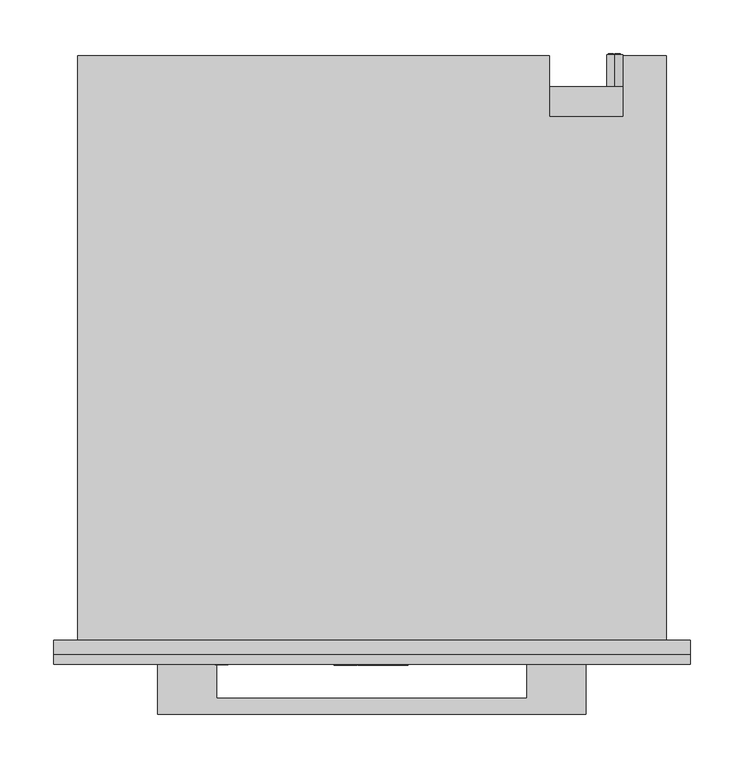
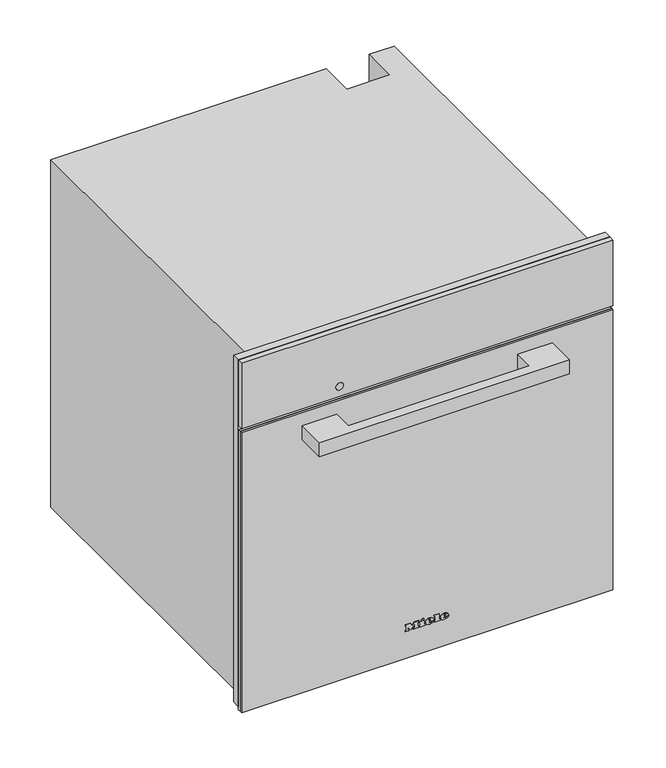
"""IFC4 building model written with IfcOpenShell, lengths in millimetres: proxy geometry, 12117580_I_DGC7860HCPro_GRGR : 23786039_I_12117580_DGC7860HCPro_GRGR."""

from ifc_helpers import new_model, si_unit, point, frame, frame_2d, origin, place, context, project, spatial, polyline, circle_curve, ellipse_curve, trimmed, segment, composite_curve, outline, extrude, faceted_brep, source, transform, mapped, element, save
from ifc_brep_helpers import plane_surface, cylinder_surface, revolved_surface, extruded_surface, advanced_brep


def specialty_equipment_684bbd22(model_context):
    return source(origin(), model_context, "Body", "SolidModel", [
        extrude(outline(polyline([(596.0, 297.5), (596.0, -297.5), (9.0, -297.5), (9.0, 297.5), (596.0, 297.5)]), holes=[polyline([(485.0, -272.5), (485.0, 272.5), (27.0, 272.5), (27.0, -272.5), (485.0, -272.5)])]), frame((0.0, -13.0, 0.0), z_axis=(0.0, 1.0, 0.0), x_axis=(0.0, 0.0, 1.0)), (0.0, 0.0, 1.0), 13.0),
        advanced_brep(
        [(227.0, 547.0, 396.5), (227.0, 547.0, 381.5), (221.4098301, 547.0, 384.0), (225.5, 547.0, 384.0), (225.5, 547.0, 394.0), (224.4955303, 547.0, 394.0), (224.4955303, 547.0, 385.0), (221.0315043, 547.0, 385.0), (221.0315043, 547.0, 384.4582978), (232.0, 547.0, 384.0), (232.0, 547.0, 394.0), (227.0, 547.0, 394.0), (227.0, 547.0, 393.0), (231.0, 547.0, 393.0), (231.0, 547.0, 389.5), (228.0, 547.0, 389.5), (228.0, 547.0, 388.5), (231.0, 547.0, 388.5), (231.0, 547.0, 385.0), (227.0, 547.0, 385.0), (227.0, 547.0, 384.0), (227.0, 517.0, 381.5), (227.0, 517.0, 396.5), (232.0, 548.0, 394.0), (232.0, 548.0, 384.0), (227.0, 548.0, 384.0), (227.0, 548.0, 385.0), (231.0, 548.0, 385.0), (231.0, 548.0, 388.5), (228.0, 548.0, 388.5), (228.0, 548.0, 389.5), (231.0, 548.0, 389.5), (231.0, 548.0, 393.0), (227.0, 548.0, 393.0), (227.0, 548.0, 394.0), (225.5, 548.0, 384.0), (221.0315043, 548.0, 384.0), (221.0315043, 548.0, 385.0), (224.4955303, 548.0, 385.0), (224.4955303, 548.0, 394.0), (225.5, 548.0, 394.0), (221.0315043, 547.0, 384.0)],
        [
            (0, 1, circle_curve(frame((227.0, 547.0, 389.0), z_axis=(0.0, 1.0, 0.0), x_axis=(0.0, 0.0, 1.0)), 7.5)),
            (1, 2, circle_curve(frame((227.0, 547.0, 389.0), z_axis=(0.0, 1.0, 0.0), x_axis=(0.0, 0.0, 1.0)), 7.5)),
            (2, 3),
            (3, 4),
            (4, 5),
            (5, 6),
            (6, 7),
            (7, 8),
            (8, 0, circle_curve(frame((227.0, 547.0, 389.0), z_axis=(0.0, 1.0, 0.0), x_axis=(0.0, 0.0, 1.0)), 7.5)),
            (9, 10),
            (10, 11),
            (11, 12),
            (12, 13),
            (13, 14),
            (14, 15),
            (15, 16),
            (16, 17),
            (17, 18),
            (18, 19),
            (19, 20),
            (20, 9),
            (21, 22, circle_curve(frame((227.0, 517.0, 389.0), z_axis=(0.0, -1.0, 0.0), x_axis=(0.0, 0.0, 1.0)), 7.5)),
            (22, 21, circle_curve(frame((227.0, 517.0, 389.0), z_axis=(0.0, -1.0, 0.0), x_axis=(0.0, 0.0, 1.0)), 7.5)),
            (0, 22),
            (21, 1),
            (8, 2, circle_curve(frame((227.0, 547.0, 389.0), z_axis=(0.0, -1.0, 0.0), x_axis=(0.0, 0.0, 1.0)), 7.5)),
            (23, 24),
            (24, 25),
            (25, 26),
            (26, 27),
            (27, 28),
            (28, 29),
            (29, 30),
            (30, 31),
            (31, 32),
            (32, 33),
            (33, 34),
            (34, 23),
            (35, 36),
            (36, 37),
            (37, 38),
            (38, 39),
            (39, 40),
            (40, 35),
            (8, 41),
            (41, 2),
            (23, 10),
            (9, 24),
            (20, 25),
            (19, 26),
            (18, 27),
            (17, 28),
            (16, 29),
            (15, 30),
            (14, 31),
            (13, 32),
            (12, 33),
            (11, 34),
            (35, 3),
            (41, 36),
            (7, 37),
            (6, 38),
            (5, 39),
            (4, 40),
        ],
        [
            plane_surface(frame((227.0, 547.0, 396.5), z_axis=(0.0, 1.0, 0.0), x_axis=(1.0, 0.0, 0.0))),
            plane_surface(frame((227.0, 517.0, 396.5), z_axis=(0.0, -1.0, 0.0), x_axis=(-1.0, 0.0, 0.0))),
            cylinder_surface(frame((227.0, 547.0, 389.0), z_axis=(0.0, -1.0, 0.0), x_axis=(0.0, 0.0, 1.0)), 7.5),
            plane_surface(frame((232.0, 548.0, 394.0), z_axis=(0.0, 1.0, 0.0), x_axis=(0.0, 0.0, -1.0))),
            plane_surface(frame((232.0, 547.0, 394.0), z_axis=(0.0, -1.0, 0.0), x_axis=(0.0, 0.0, 1.0))),
            plane_surface(frame((232.0, 548.0, 394.0), z_axis=(1.0, 0.0, 0.0), x_axis=(0.0, -1.0, 0.0))),
            plane_surface(frame((232.0, 548.0, 384.0), z_axis=(0.0, 0.0, -1.0), x_axis=(0.0, -1.0, 0.0))),
            plane_surface(frame((227.0, 548.0, 384.0), z_axis=(-1.0, 0.0, 0.0), x_axis=(0.0, -1.0, 0.0))),
            plane_surface(frame((227.0, 548.0, 385.0), z_axis=(0.0, 0.0, 1.0), x_axis=(0.0, -1.0, 0.0))),
            plane_surface(frame((231.0, 548.0, 385.0), z_axis=(-1.0, 0.0, 0.0), x_axis=(0.0, -1.0, 0.0))),
            plane_surface(frame((231.0, 548.0, 388.5), z_axis=(0.0, 0.0, -1.0), x_axis=(0.0, -1.0, 0.0))),
            plane_surface(frame((228.0, 548.0, 388.5), z_axis=(-1.0, 0.0, 0.0), x_axis=(0.0, -1.0, 0.0))),
            plane_surface(frame((228.0, 548.0, 389.5), z_axis=(0.0, 0.0, 1.0), x_axis=(0.0, -1.0, 0.0))),
            plane_surface(frame((231.0, 548.0, 389.5), z_axis=(-1.0, 0.0, 0.0), x_axis=(0.0, -1.0, 0.0))),
            plane_surface(frame((231.0, 548.0, 393.0), z_axis=(0.0, 0.0, -1.0), x_axis=(0.0, -1.0, 0.0))),
            plane_surface(frame((227.0, 548.0, 393.0), z_axis=(-1.0, 0.0, 0.0), x_axis=(0.0, -1.0, 0.0))),
            plane_surface(frame((227.0, 548.0, 394.0), z_axis=(0.0, 0.0, 1.0), x_axis=(0.0, -1.0, 0.0))),
            plane_surface(frame((225.5, 548.0, 384.0), z_axis=(0.0, 0.0, -1.0), x_axis=(0.0, -1.0, 0.0))),
            plane_surface(frame((221.0315043, 548.0, 384.0), z_axis=(-1.0, 0.0, 0.0), x_axis=(0.0, -1.0, 0.0))),
            plane_surface(frame((221.0315043, 548.0, 385.0), z_axis=(0.0, 0.0, 1.0), x_axis=(0.0, -1.0, 0.0))),
            plane_surface(frame((224.4955303, 548.0, 385.0), z_axis=(-1.0, 0.0, 0.0), x_axis=(0.0, -1.0, 0.0))),
            plane_surface(frame((224.4955303, 548.0, 394.0), z_axis=(0.0, 0.0, 1.0), x_axis=(0.0, -1.0, 0.0))),
            plane_surface(frame((225.5, 548.0, 394.0), z_axis=(1.0, 0.0, 0.0), x_axis=(0.0, -1.0, 0.0))),
        ],
        [
            (0, [[1, 2, 3, 4, 5, 6, 7, 8, 9], [10, 11, 12, 13, 14, 15, 16, 17, 18, 19, 20, 21]]),
            (1, [[22, 23]]),
            (2, [[-1, 24, -22, 25]]),
            (2, [[-23, -24, -9, 26, -2, -25]]),
            (3, [[27, 28, 29, 30, 31, 32, 33, 34, 35, 36, 37, 38]]),
            (3, [[39, 40, 41, 42, 43, 44]]),
            (4, [[45, 46, -26]]),
            (5, [[-27, 47, -10, 48]]),
            (6, [[-28, -48, -21, 49]]),
            (7, [[-29, -49, -20, 50]]),
            (8, [[-30, -50, -19, 51]]),
            (9, [[-31, -51, -18, 52]]),
            (10, [[-32, -52, -17, 53]]),
            (11, [[-33, -53, -16, 54]]),
            (12, [[-34, -54, -15, 55]]),
            (13, [[-35, -55, -14, 56]]),
            (14, [[-36, -56, -13, 57]]),
            (15, [[-37, -57, -12, 58]]),
            (16, [[-38, -58, -11, -47]]),
            (17, [[-39, 59, -3, -46, 60]]),
            (18, [[-40, -60, -45, -8, 61]]),
            (19, [[-41, -61, -7, 62]]),
            (20, [[-42, -62, -6, 63]]),
            (21, [[-43, -63, -5, 64]]),
            (22, [[-44, -64, -4, -59]]),
        ],
    ),
        faceted_brep([(-275.0, 546.0, 0.0), (-275.0, 546.0, 588.0), (166.0, 546.0, 588.0), (166.0, 546.0, 0.0), (235.0, 546.0, 588.0), (275.0, 546.0, 588.0), (275.0, 546.0, 478.0), (235.0, 546.0, 478.0), (275.0, 0.0, 588.0), (-275.0, 0.0, 588.0), (-275.0, 0.0, 0.0), (275.0, 0.0, 0.0), (-272.5, 0.0, 485.0), (272.5, 0.0, 485.0), (272.5, 0.0, 27.0), (-272.5, 0.0, 27.0), (235.0, 489.0, 588.0), (166.0, 489.0, 588.0), (166.0, 517.0, 0.0), (275.0, 517.0, 0.0), (275.0, 517.0, 478.0), (272.5, 17.0, 485.0), (-272.5, 17.0, 485.0), (-272.5, 17.0, 27.0), (272.5, 17.0, 27.0), (231.0, 17.0, 409.0), (231.0, 17.0, 61.0), (-231.0, 17.0, 61.0), (-231.0, 17.0, 409.0), (231.0, 411.0, 409.0), (-231.0, 411.0, 409.0), (-231.0, 411.0, 61.0), (231.0, 411.0, 61.0), (235.0, 489.0, 477.0), (166.0, 489.0, 477.0), (166.0, 517.0, 477.0), (235.0, 517.0, 477.0), (235.0, 517.0, 478.0)], [[[0, 1, 2, 3]], [[4, 5, 6, 7]], [[8, 9, 10, 11], [12, 13, 14, 15]], [[9, 8, 5, 4, 16, 17, 2, 1]], [[1, 0, 10, 9]], [[11, 10, 0, 3, 18, 19]], [[8, 11, 19, 20, 6, 5]], [[21, 22, 23, 24], [25, 26, 27, 28]], [[22, 21, 13, 12]], [[23, 22, 12, 15]], [[24, 23, 15, 14]], [[21, 24, 14, 13]], [[29, 30, 31, 32]], [[29, 32, 26, 25]], [[32, 31, 27, 26]], [[31, 30, 28, 27]], [[30, 29, 25, 28]], [[16, 33, 34, 17]], [[17, 34, 35, 18, 3, 2]], [[34, 33, 36, 35]], [[33, 16, 4, 7, 37, 36]], [[37, 20, 19, 18, 35, 36]], [[20, 37, 7, 6]]]),
        advanced_brep(
        [(26.2998, -23.0, 52.7018), (26.2998, -23.0, 53.8532), (33.9264, -23.0, 53.8532), (20.6568, -23.0, 53.8532), (23.7918, -23.0, 50.0), (33.7326, -23.0, 52.7018), (30.2898, -23.0, 52.7018), (27.5766, -23.0, 51.425), (26.2998, -23.0, 55.3124), (26.2998, -23.0, 56.555), (28.2492, -23.0, 56.555), (28.2492, -23.0, 55.3124), (26.2998, -22.0, 52.7018), (27.5766, -22.0, 51.425), (30.2898, -22.0, 52.7018), (33.7326, -22.0, 52.7018), (23.7918, -22.0, 50.0), (20.6568, -22.0, 53.8532), (33.9264, -22.0, 53.8532), (26.2998, -22.0, 53.8532), (26.2998, -22.0, 55.3124), (28.2492, -22.0, 55.3124), (28.2492, -22.0, 56.555), (26.2998, -22.0, 56.555)],
        [
            (0, 1),
            (1, 2),
            (2, 3, ellipse_curve(frame((27.2916, -23.0, 53.8532), z_axis=(0.0, -1.0, 0.0), x_axis=(-1.0, 0.0, 0.0)), 6.6348, 5.4834)),
            (3, 4, circle_curve(frame((25.0686622, -23.0, 54.2408), z_axis=(0.0, -1.0, 0.0), x_axis=(0.0, 0.0, -1.0)), 4.4288556)),
            (4, 5, circle_curve(frame((27.1587808, -23.0, 57.2504), z_axis=(0.0, -1.0, 0.0), x_axis=(0.0, 0.0, -1.0)), 7.9940516)),
            (5, 6),
            (6, 7, circle_curve(frame((28.1338588, -23.0, 53.762), z_axis=(0.0, 1.0, 0.0), x_axis=(0.0, 0.0, -1.0)), 2.4025208)),
            (7, 0, circle_curve(frame((27.5766, -23.0, 52.7018), z_axis=(0.0, 1.0, 0.0), x_axis=(0.0, 0.0, -1.0)), 1.2768)),
            (8, 9),
            (9, 10, circle_curve(frame((27.2745, -23.0, 56.555), z_axis=(0.0, 1.0, 0.0), x_axis=(0.0, 0.0, -1.0)), 0.9747)),
            (10, 11),
            (11, 8),
            (12, 13, circle_curve(frame((27.5766, -22.0, 52.7018), z_axis=(0.0, -1.0, 0.0), x_axis=(0.0, 0.0, -1.0)), 1.2768)),
            (13, 14, circle_curve(frame((28.1338588, -22.0, 53.762), z_axis=(0.0, -1.0, 0.0), x_axis=(0.0, 0.0, -1.0)), 2.4025208)),
            (14, 15),
            (15, 16, circle_curve(frame((27.1587808, -22.0, 57.2504), z_axis=(0.0, 1.0, 0.0), x_axis=(0.0, 0.0, -1.0)), 7.9940516)),
            (16, 17, circle_curve(frame((25.0686622, -22.0, 54.2408), z_axis=(0.0, 1.0, 0.0), x_axis=(0.0, 0.0, -1.0)), 4.4288556)),
            (17, 18, ellipse_curve(frame((27.2916, -22.0, 53.8532), z_axis=(0.0, 1.0, 0.0), x_axis=(-1.0, 0.0, 0.0)), 6.6348, 5.4834)),
            (18, 19),
            (19, 12),
            (20, 21),
            (21, 22),
            (22, 23, circle_curve(frame((27.2745, -22.0, 56.555), z_axis=(0.0, -1.0, 0.0), x_axis=(0.0, 0.0, -1.0)), 0.9747)),
            (23, 20),
            (0, 12),
            (19, 1),
            (18, 2),
            (5, 15),
            (14, 6),
            (17, 3),
            (13, 7),
            (16, 4),
            (8, 20),
            (23, 9),
            (22, 10),
            (21, 11),
        ],
        [
            plane_surface(frame((26.2998, -23.0, 53.8532), z_axis=(0.0, -1.0, 0.0), x_axis=(0.0, 0.0, 1.0))),
            plane_surface(frame((26.2998, -22.0, 53.8532), z_axis=(0.0, 1.0, 0.0), x_axis=(0.0, 0.0, -1.0))),
            plane_surface(frame((26.2998, -23.0, 52.7018), z_axis=(1.0, 0.0, 0.0), x_axis=(0.0, 1.0, 0.0))),
            plane_surface(frame((26.2998, -23.0, 53.8532), z_axis=(0.0, 0.0, -1.0), x_axis=(0.0, 1.0, 0.0))),
            plane_surface(frame((33.7326, -23.0, 52.7018), z_axis=(0.0, 0.0, 1.0), x_axis=(0.0, 1.0, 0.0))),
            extruded_surface(trimmed(ellipse_curve(frame((27.2916, -21.0, 53.8532), z_axis=(0.0, -1.0, 0.0), x_axis=(-1.0, 0.0, 0.0)), 6.6348, 5.4834), [point((33.9264, -21.0, 53.8532))], [point((20.6568, -21.0, 53.8532))], True, "CARTESIAN"), (0.0, -1.0, 0.0), 1.0),
            revolved_surface(polyline([(28.1338588, -22.0, 51.3594792), (28.1338588, -23.0, 51.3594792)]), (28.1338588, -22.0, 53.762), (0.0, 1.0, 0.0)),
            revolved_surface(polyline([(27.5766, -22.0, 51.425), (27.5766, -23.0, 51.425)]), (27.5766, -22.0, 52.7018), (0.0, 1.0, 0.0)),
            cylinder_surface(frame((25.0686622, -22.0, 54.2408), z_axis=(0.0, -1.0, 0.0), x_axis=(0.0, 0.0, -1.0)), 4.4288556),
            cylinder_surface(frame((27.1587808, -22.0, 57.2504), z_axis=(0.0, -1.0, 0.0), x_axis=(0.0, 0.0, -1.0)), 7.9940516),
            plane_surface(frame((26.2998, -23.0, 55.3124), z_axis=(1.0, 0.0, 0.0), x_axis=(0.0, 1.0, 0.0))),
            revolved_surface(polyline([(27.2745, -22.0, 55.5803), (27.2745, -23.0, 55.5803)]), (27.2745, -22.0, 56.555), (0.0, 1.0, 0.0)),
            plane_surface(frame((28.2492, -23.0, 56.555), z_axis=(-1.0, 0.0, 0.0), x_axis=(0.0, 1.0, 0.0))),
            plane_surface(frame((28.2492, -23.0, 55.3124), z_axis=(0.0, 0.0, 1.0), x_axis=(0.0, 1.0, 0.0))),
        ],
        [
            (0, [[1, 2, 3, 4, 5, 6, 7, 8], [9, 10, 11, 12]]),
            (1, [[13, 14, 15, 16, 17, 18, 19, 20], [21, 22, 23, 24]]),
            (2, [[-1, 25, -20, 26]]),
            (3, [[-2, -26, -19, 27]]),
            (4, [[-6, 28, -15, 29]]),
            (5, [[-3, -27, -18, 30]]),
            (6, [[-7, -29, -14, 31]]),
            (7, [[-8, -31, -13, -25]]),
            (8, [[-4, -30, -17, 32]]),
            (9, [[-5, -32, -16, -28]]),
            (10, [[-9, 33, -24, 34]]),
            (11, [[-10, -34, -23, 35]]),
            (12, [[-11, -35, -22, 36]]),
            (13, [[-12, -36, -21, -33]]),
        ],
    ),
        advanced_brep(
        [(2.508, -23.0, 52.7018), (2.508, -23.0, 53.8532), (10.1346, -23.0, 53.8532), (-3.135, -23.0, 53.8532), (0.0, -23.0, 50.0), (9.9408, -23.0, 52.7018), (6.498, -23.0, 52.7018), (3.7848, -23.0, 51.425), (2.508, -23.0, 55.3124), (2.508, -23.0, 56.555), (4.4574, -23.0, 56.555), (4.4574, -23.0, 55.3124), (2.508, -22.0, 52.7018), (3.7848, -22.0, 51.425), (6.498, -22.0, 52.7018), (9.9408, -22.0, 52.7018), (0.0, -22.0, 50.0), (-3.135, -22.0, 53.8532), (10.1346, -22.0, 53.8532), (2.508, -22.0, 53.8532), (2.508, -22.0, 55.3124), (4.4574, -22.0, 55.3124), (4.4574, -22.0, 56.555), (2.508, -22.0, 56.555)],
        [
            (0, 1),
            (1, 2),
            (2, 3, ellipse_curve(frame((3.4998, -23.0, 53.8532), z_axis=(0.0, -1.0, 0.0), x_axis=(-1.0, 0.0, 0.0)), 6.6348, 5.4834)),
            (3, 4, circle_curve(frame((1.2768622, -23.0, 54.2408), z_axis=(0.0, -1.0, 0.0), x_axis=(0.0, 0.0, -1.0)), 4.4288556)),
            (4, 5, circle_curve(frame((3.3669808, -23.0, 57.2504), z_axis=(0.0, -1.0, 0.0), x_axis=(0.0, 0.0, -1.0)), 7.9940516)),
            (5, 6),
            (6, 7, circle_curve(frame((4.3420588, -23.0, 53.762), z_axis=(0.0, 1.0, 0.0), x_axis=(0.0, 0.0, -1.0)), 2.4025208)),
            (7, 0, circle_curve(frame((3.7848, -23.0, 52.7018), z_axis=(0.0, 1.0, 0.0), x_axis=(0.0, 0.0, -1.0)), 1.2768)),
            (8, 9),
            (9, 10, circle_curve(frame((3.4827, -23.0, 56.555), z_axis=(0.0, 1.0, 0.0), x_axis=(0.0, 0.0, -1.0)), 0.9747)),
            (10, 11),
            (11, 8),
            (12, 13, circle_curve(frame((3.7848, -22.0, 52.7018), z_axis=(0.0, -1.0, 0.0), x_axis=(0.0, 0.0, -1.0)), 1.2768)),
            (13, 14, circle_curve(frame((4.3420588, -22.0, 53.762), z_axis=(0.0, -1.0, 0.0), x_axis=(0.0, 0.0, -1.0)), 2.4025208)),
            (14, 15),
            (15, 16, circle_curve(frame((3.3669808, -22.0, 57.2504), z_axis=(0.0, 1.0, 0.0), x_axis=(0.0, 0.0, -1.0)), 7.9940516)),
            (16, 17, circle_curve(frame((1.2768622, -22.0, 54.2408), z_axis=(0.0, 1.0, 0.0), x_axis=(0.0, 0.0, -1.0)), 4.4288556)),
            (17, 18, ellipse_curve(frame((3.4998, -22.0, 53.8532), z_axis=(0.0, 1.0, 0.0), x_axis=(-1.0, 0.0, 0.0)), 6.6348, 5.4834)),
            (18, 19),
            (19, 12),
            (20, 21),
            (21, 22),
            (22, 23, circle_curve(frame((3.4827, -22.0, 56.555), z_axis=(0.0, -1.0, 0.0), x_axis=(0.0, 0.0, -1.0)), 0.9747)),
            (23, 20),
            (0, 12),
            (19, 1),
            (18, 2),
            (5, 15),
            (14, 6),
            (17, 3),
            (13, 7),
            (16, 4),
            (8, 20),
            (23, 9),
            (22, 10),
            (21, 11),
        ],
        [
            plane_surface(frame((2.508, -23.0, 53.8532), z_axis=(0.0, -1.0, 0.0), x_axis=(0.0, 0.0, 1.0))),
            plane_surface(frame((2.508, -22.0, 53.8532), z_axis=(0.0, 1.0, 0.0), x_axis=(0.0, 0.0, -1.0))),
            plane_surface(frame((2.508, -23.0, 52.7018), z_axis=(1.0, 0.0, 0.0), x_axis=(0.0, 1.0, 0.0))),
            plane_surface(frame((2.508, -23.0, 53.8532), z_axis=(0.0, 0.0, -1.0), x_axis=(0.0, 1.0, 0.0))),
            plane_surface(frame((9.9408, -23.0, 52.7018), z_axis=(0.0, 0.0, 1.0), x_axis=(0.0, 1.0, 0.0))),
            extruded_surface(trimmed(ellipse_curve(frame((3.4998, -21.0, 53.8532), z_axis=(0.0, -1.0, 0.0), x_axis=(-1.0, 0.0, 0.0)), 6.6348, 5.4834), [point((10.1346, -21.0, 53.8532))], [point((-3.135, -21.0, 53.8532))], True, "CARTESIAN"), (0.0, -1.0, 0.0), 1.0),
            revolved_surface(polyline([(4.3420588, -22.0, 51.3594792), (4.3420588, -23.0, 51.3594792)]), (4.3420588, -22.0, 53.762), (0.0, 1.0, 0.0)),
            revolved_surface(polyline([(3.7848, -22.0, 51.425), (3.7848, -23.0, 51.425)]), (3.7848, -22.0, 52.7018), (0.0, 1.0, 0.0)),
            cylinder_surface(frame((1.2768622, -22.0, 54.2408), z_axis=(0.0, -1.0, 0.0), x_axis=(0.0, 0.0, -1.0)), 4.4288556),
            cylinder_surface(frame((3.3669808, -22.0, 57.2504), z_axis=(0.0, -1.0, 0.0), x_axis=(0.0, 0.0, -1.0)), 7.9940516),
            plane_surface(frame((2.508, -23.0, 55.3124), z_axis=(1.0, 0.0, 0.0), x_axis=(0.0, 1.0, 0.0))),
            revolved_surface(polyline([(3.4827, -22.0, 55.5803), (3.4827, -23.0, 55.5803)]), (3.4827, -22.0, 56.555), (0.0, 1.0, 0.0)),
            plane_surface(frame((4.4574, -23.0, 56.555), z_axis=(-1.0, 0.0, 0.0), x_axis=(0.0, 1.0, 0.0))),
            plane_surface(frame((4.4574, -23.0, 55.3124), z_axis=(0.0, 0.0, 1.0), x_axis=(0.0, 1.0, 0.0))),
        ],
        [
            (0, [[1, 2, 3, 4, 5, 6, 7, 8], [9, 10, 11, 12]]),
            (1, [[13, 14, 15, 16, 17, 18, 19, 20], [21, 22, 23, 24]]),
            (2, [[-1, 25, -20, 26]]),
            (3, [[-2, -26, -19, 27]]),
            (4, [[-6, 28, -15, 29]]),
            (5, [[-3, -27, -18, 30]]),
            (6, [[-7, -29, -14, 31]]),
            (7, [[-8, -31, -13, -25]]),
            (8, [[-4, -30, -17, 32]]),
            (9, [[-5, -32, -16, -28]]),
            (10, [[-9, 33, -24, 34]]),
            (11, [[-10, -34, -23, 35]]),
            (12, [[-11, -35, -22, 36]]),
            (13, [[-12, -36, -21, -33]]),
        ],
    ),
        extrude(outline(polyline([(60.7274, -9.9522), (58.8806, -9.0858), (60.6818, -5.2212), (62.5286, -6.0762), (60.7274, -9.9522)])), frame((0.0, -23.0, 0.0), z_axis=(0.0, 1.0, 0.0), x_axis=(0.0, 0.0, 1.0)), (0.0, 0.0, 1.0), 1.0),
        extrude(outline(polyline([(58.6298, -12.768), (56.5892, -12.768), (56.5892, -11.4114), (51.9152, -11.4114), (51.9152, -12.768), (50.0, -12.768), (50.0, -3.7734), (51.9152, -3.7734), (51.9152, -5.0958), (58.6298, -5.0958), (58.6298, -12.768)])), frame((0.0, -23.0, 0.0), z_axis=(0.0, 1.0, 0.0), x_axis=(0.0, 0.0, 1.0)), (0.0, 0.0, 1.0), 1.0),
        extrude(outline(polyline([(59.5418, 10.773), (59.5418, 12.141), (51.9152, 12.141), (51.9152, 10.773), (50.0, 10.773), (50.0, 20.0184), (51.9152, 20.0184), (51.9152, 18.6162), (61.4, 18.6162), (61.4, 10.773), (59.5418, 10.773)])), frame((0.0, -23.0, 0.0), z_axis=(0.0, 1.0, 0.0), x_axis=(0.0, 0.0, 1.0)), (0.0, 0.0, 1.0), 1.0),
        extrude(outline(polyline([(59.5418, -35.4882), (59.5418, -34.1088), (51.9152, -34.1088), (51.9152, -35.4882), (50.0, -35.4882), (50.0, -30.4722), (51.9152, -30.4722), (51.9152, -31.8402), (56.7429247, -31.8402), (50.0, -26.7444), (56.9402223, -21.6258), (51.9152, -21.6258), (51.9152, -23.028), (50.0, -23.028), (50.0, -13.9308), (51.9152, -13.9308), (51.9152, -15.3786), (59.5418, -15.3786), (59.5418, -13.9308), (61.4, -13.9308), (61.4, -20.8734), (57.125, -24.2022), (61.4, -27.5424), (61.4, -35.4882), (59.5418, -35.4882)])), frame((0.0, -23.0, 0.0), z_axis=(0.0, 1.0, 0.0), x_axis=(0.0, 0.0, 1.0)), (0.0, 0.0, 1.0), 1.0),
        extrude(outline(polyline([(297.5, -22.0), (-297.5, -22.0), (-297.5, -13.0), (297.5, -13.0), (297.5, -22.0)])), frame((0.0, 0.0, 485.0), z_axis=(0.0, 0.0, 1.0), x_axis=(1.0, 0.0, 0.0)), (0.0, 0.0, 1.0), 111.0),
        extrude(outline(composite_curve([segment(trimmed(circle_curve(frame_2d((502.0, -140.5745637)), 6.0), [point((502.0, -146.5745637))], [point((502.0, -134.5745637))], False, "CARTESIAN"), True, "CONTINUOUS"), segment(trimmed(circle_curve(frame_2d((502.0, -140.5745637)), 6.0), [point((502.0, -134.5745637))], [point((502.0, -146.5745637))], False, "CARTESIAN"), True, "CONTINUOUS")], self_intersect=False)), frame((0.0, -22.5, 0.0), z_axis=(0.0, 1.0, 0.0), x_axis=(0.0, 0.0, 1.0)), (0.0, 0.0, 1.0), 1.0),
        extrude(outline(polyline([(-200.0, -69.0), (-200.0, -22.0), (-145.0, -22.0), (-145.0, -54.0), (145.0, -54.0), (145.0, -22.0), (200.0, -22.0), (200.0, -69.0), (-200.0, -69.0)])), frame((0.0, 0.0, 432.0), z_axis=(0.0, 0.0, 1.0), x_axis=(1.0, 0.0, 0.0)), (0.0, 0.0, 1.0), 24.0),
        extrude(outline(polyline([(297.5, -18.0), (-297.5, -18.0), (-297.5, -13.0), (297.5, -13.0), (297.5, -18.0)])), frame((0.0, 0.0, 4.0), z_axis=(0.0, 0.0, 1.0), x_axis=(1.0, 0.0, 0.0)), (0.0, 0.0, 1.0), 474.0),
        extrude(outline(polyline([(-297.5, -18.0), (297.5, -18.0), (297.5, -22.0), (-297.5, -22.0), (-297.5, -18.0)])), frame((0.0, 0.0, 4.0), z_axis=(0.0, 0.0, 1.0), x_axis=(1.0, 0.0, 0.0)), (0.0, 0.0, 1.0), 474.0),
    ])


if __name__ == "__main__":
    model = new_model("IFC4")
    model_context = context("Model", 3, world=origin())
    ifc_project = project(units=[si_unit("LENGTHUNIT", "METRE", prefix="MILLI")], contexts=[model_context])
    site = spatial("IfcSite", under=ifc_project)
    building = spatial("IfcBuilding", under=site)
    placement = place(None, origin())
    specialty_equipment_shape = specialty_equipment_684bbd22(model_context)
    element("IfcBuildingElementProxy", 1, Name="12117580_I_DGC7860HCPro_GRGR : 23786039_I_12117580_DGC7860HCPro_GRGR", ObjectType="12117580_I_DGC7860HCPro_GRGR : 23786039_I_12117580_DGC7860HCPro_GRGR", at=placement, inside=building, context=model_context, shape_type="MappedRepresentation", body=[
        mapped(specialty_equipment_shape, transform((0.0, 0.0, 0.0), x_axis=(1.0, 0.0, 0.0), y_axis=(0.0, 1.0, 0.0), z_axis=(0.0, 0.0, 1.0))),
    ])
    save(model, "model.ifc")
